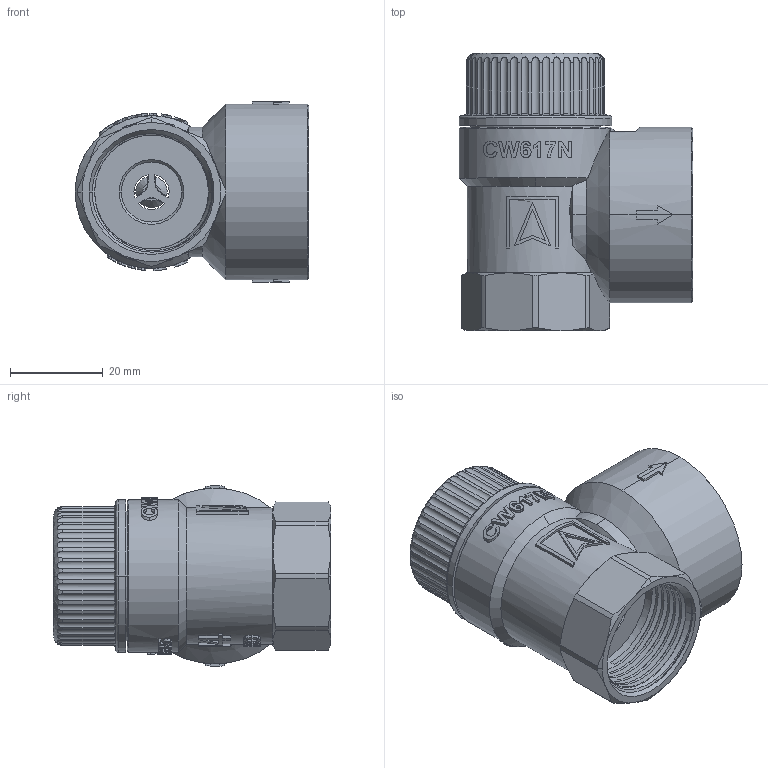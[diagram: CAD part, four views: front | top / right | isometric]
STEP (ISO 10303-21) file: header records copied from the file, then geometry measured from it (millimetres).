
FILE_DESCRIPTION (( 'STEP AP214' ), '1' );
FILE_NAME ('42425.STEP', '2022-04-14T12:05:00', ( '' ), ( '' ), 'SwSTEP 2.0', 'SolidWorks 2021', '' );
FILE_SCHEMA (( 'AUTOMOTIVE_DESIGN' ));
Length unit declared in the file: millimetre
Products named in the file (4): 90005398; 42425; 30915205; 30005563
Assembly tree (3 placements, depth 3):
  42425
    90005398
      30005563
      30915205
Bounding box: 50.5 x 60 x 39 mm (x, y, z)
Volume: 21763.6 mm3; surface area: 20221.9 mm2
Topology: 2 solids, 2 shells, 788 faces, 2136 edges, 1404 vertices
Faces by surface type: plane 306, cylinder 234, bspline 186, cone 62
Entity records: 44838 total; most frequent: CARTESIAN_POINT 18014, ORIENTED_EDGE 4272, DIRECTION 2994, EDGE_CURVE 2136, VERTEX_POINT 1404, AXIS2_PLACEMENT_3D 1008, LINE 978, VECTOR 978
